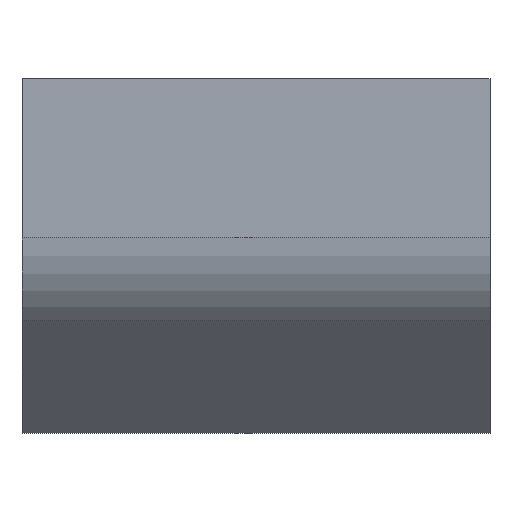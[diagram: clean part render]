
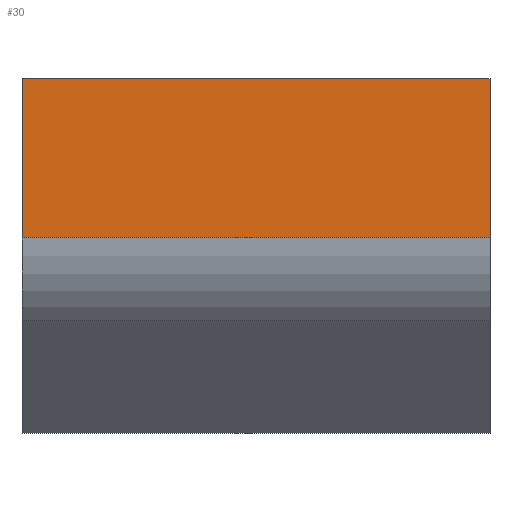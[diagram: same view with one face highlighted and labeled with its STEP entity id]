
A CAD part, front view. The second image highlights one B-rep face of the part: STEP entity #30.
In plain terms, the highlighted planar face has unit normal (0, -1, 0).
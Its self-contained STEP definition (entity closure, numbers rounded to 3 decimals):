
#30 = ADVANCED_FACE ( 'NONE', ( #679 ), #1204, .F. ) ;
#59 = VERTEX_POINT ( 'NONE', #994 ) ;
#145 = CARTESIAN_POINT ( 'NONE',  ( 150., -100., -102.132 ) ) ;
#150 = EDGE_CURVE ( 'NONE', #401, #1666, #1087, .T. ) ;
#177 = DIRECTION ( 'NONE',  ( 0., 1., 0. ) ) ;
#208 = EDGE_CURVE ( 'NONE', #59, #401, #755, .T. ) ;
#224 = CARTESIAN_POINT ( 'NONE',  ( 150., -100., 0. ) ) ;
#242 = ORIENTED_EDGE ( 'NONE', *, *, #208, .T. ) ;
#246 = CARTESIAN_POINT ( 'NONE',  ( 150., -100., -102.132 ) ) ;
#267 = ORIENTED_EDGE ( 'NONE', *, *, #150, .T. ) ;
#303 = VECTOR ( 'NONE', #1026, 1000. ) ;
#368 = CARTESIAN_POINT ( 'NONE',  ( -150., -100., -102.132 ) ) ;
#397 = EDGE_LOOP ( 'NONE', ( #267, #636, #1108, #242 ) ) ;
#401 = VERTEX_POINT ( 'NONE', #1564 ) ;
#428 = CARTESIAN_POINT ( 'NONE',  ( 150., -100., -102.132 ) ) ;
#441 = VECTOR ( 'NONE', #498, 1000. ) ;
#444 = DIRECTION ( 'NONE',  ( 0., 0., 1. ) ) ;
#485 = LINE ( 'NONE', #145, #303 ) ;
#498 = DIRECTION ( 'NONE',  ( -1., 0., 0. ) ) ;
#577 = VERTEX_POINT ( 'NONE', #246 ) ;
#579 = DIRECTION ( 'NONE',  ( 0., 0., -1. ) ) ;
#636 = ORIENTED_EDGE ( 'NONE', *, *, #879, .F. ) ;
#655 = VECTOR ( 'NONE', #579, 1000. ) ;
#679 = FACE_OUTER_BOUND ( 'NONE', #397, .T. ) ;
#755 = LINE ( 'NONE', #224, #441 ) ;
#879 = EDGE_CURVE ( 'NONE', #577, #1666, #485, .T. ) ;
#971 = DIRECTION ( 'NONE',  ( 0., 0., -1. ) ) ;
#994 = CARTESIAN_POINT ( 'NONE',  ( 150., -100., 0. ) ) ;
#1026 = DIRECTION ( 'NONE',  ( -1., 0., 0. ) ) ;
#1087 = LINE ( 'NONE', #1495, #655 ) ;
#1094 = CARTESIAN_POINT ( 'NONE',  ( 150., -100., -102.132 ) ) ;
#1108 = ORIENTED_EDGE ( 'NONE', *, *, #1183, .F. ) ;
#1183 = EDGE_CURVE ( 'NONE', #59, #577, #1530, .T. ) ;
#1204 = PLANE ( 'NONE',  #1261 ) ;
#1225 = VECTOR ( 'NONE', #971, 1000. ) ;
#1261 = AXIS2_PLACEMENT_3D ( 'NONE', #428, #177, #444 ) ;
#1495 = CARTESIAN_POINT ( 'NONE',  ( -150., -100., -102.132 ) ) ;
#1530 = LINE ( 'NONE', #1094, #1225 ) ;
#1564 = CARTESIAN_POINT ( 'NONE',  ( -150., -100., 0. ) ) ;
#1666 = VERTEX_POINT ( 'NONE', #368 ) ;
